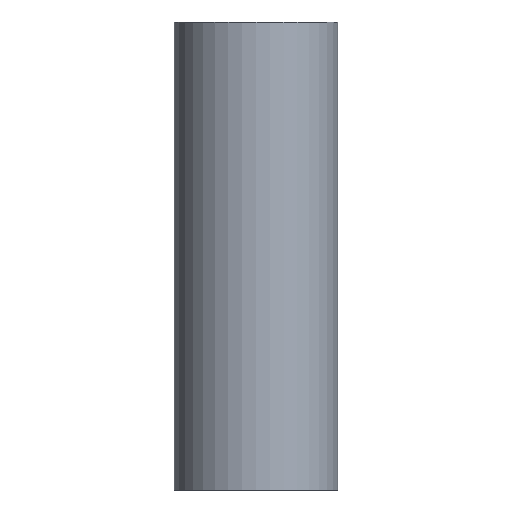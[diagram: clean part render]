
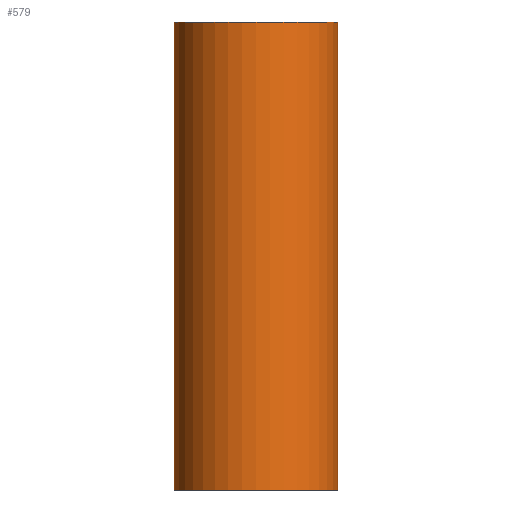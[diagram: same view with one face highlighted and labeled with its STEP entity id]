
A CAD part, front view. The second image highlights one B-rep face of the part: STEP entity #579.
In plain terms, the highlighted cylindrical face has radius 70 mm (diameter 140 mm), a partial arc.
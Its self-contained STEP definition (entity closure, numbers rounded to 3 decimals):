
#56 = AXIS2_PLACEMENT_3D ( 'NONE', #4053, #713, #2313 ) ;
#63 = DIRECTION ( 'NONE',  ( -1., 0., 0. ) ) ;
#77 = EDGE_CURVE ( 'NONE', #1702, #2773, #5028, .T. ) ;
#126 = ORIENTED_EDGE ( 'NONE', *, *, #993, .F. ) ;
#579 = ADVANCED_FACE ( 'NONE', ( #1498 ), #4887, .T. ) ;
#713 = DIRECTION ( 'NONE',  ( 0., 0., 1. ) ) ;
#722 = LINE ( 'NONE', #747, #4865 ) ;
#747 = CARTESIAN_POINT ( 'NONE',  ( 70., 0., 400. ) ) ;
#993 = EDGE_CURVE ( 'NONE', #2773, #1054, #722, .T. ) ;
#1054 = VERTEX_POINT ( 'NONE', #4036 ) ;
#1070 = CARTESIAN_POINT ( 'NONE',  ( 0., 0., 400. ) ) ;
#1171 = ORIENTED_EDGE ( 'NONE', *, *, #2186, .T. ) ;
#1211 = CARTESIAN_POINT ( 'NONE',  ( -70., 0., 400. ) ) ;
#1278 = AXIS2_PLACEMENT_3D ( 'NONE', #2771, #1881, #5372 ) ;
#1498 = FACE_OUTER_BOUND ( 'NONE', #2724, .T. ) ;
#1702 = VERTEX_POINT ( 'NONE', #4277 ) ;
#1881 = DIRECTION ( 'NONE',  ( 0., 0., 1. ) ) ;
#2186 = EDGE_CURVE ( 'NONE', #1702, #3889, #5461, .T. ) ;
#2313 = DIRECTION ( 'NONE',  ( 1., 0., 0. ) ) ;
#2644 = AXIS2_PLACEMENT_3D ( 'NONE', #1070, #2772, #63 ) ;
#2724 = EDGE_LOOP ( 'NONE', ( #126, #4655, #1171, #4388 ) ) ;
#2771 = CARTESIAN_POINT ( 'NONE',  ( 0., 0., 0. ) ) ;
#2772 = DIRECTION ( 'NONE',  ( 0., 0., -1. ) ) ;
#2773 = VERTEX_POINT ( 'NONE', #3507 ) ;
#3507 = CARTESIAN_POINT ( 'NONE',  ( 70., 0., 400. ) ) ;
#3713 = VECTOR ( 'NONE', #4993, 1000. ) ;
#3889 = VERTEX_POINT ( 'NONE', #5204 ) ;
#3938 = CIRCLE ( 'NONE', #1278, 70. ) ;
#4036 = CARTESIAN_POINT ( 'NONE',  ( 70., 0., 0. ) ) ;
#4053 = CARTESIAN_POINT ( 'NONE',  ( 0., 0., 400. ) ) ;
#4277 = CARTESIAN_POINT ( 'NONE',  ( -70., 0., 400. ) ) ;
#4388 = ORIENTED_EDGE ( 'NONE', *, *, #4996, .T. ) ;
#4655 = ORIENTED_EDGE ( 'NONE', *, *, #77, .F. ) ;
#4865 = VECTOR ( 'NONE', #4956, 1000. ) ;
#4887 = CYLINDRICAL_SURFACE ( 'NONE', #2644, 70. ) ;
#4956 = DIRECTION ( 'NONE',  ( 0., 0., -1. ) ) ;
#4993 = DIRECTION ( 'NONE',  ( 0., 0., -1. ) ) ;
#4996 = EDGE_CURVE ( 'NONE', #3889, #1054, #3938, .T. ) ;
#5028 = CIRCLE ( 'NONE', #56, 70. ) ;
#5204 = CARTESIAN_POINT ( 'NONE',  ( -70., 0., 0. ) ) ;
#5372 = DIRECTION ( 'NONE',  ( 1., 0., 0. ) ) ;
#5461 = LINE ( 'NONE', #1211, #3713 ) ;
